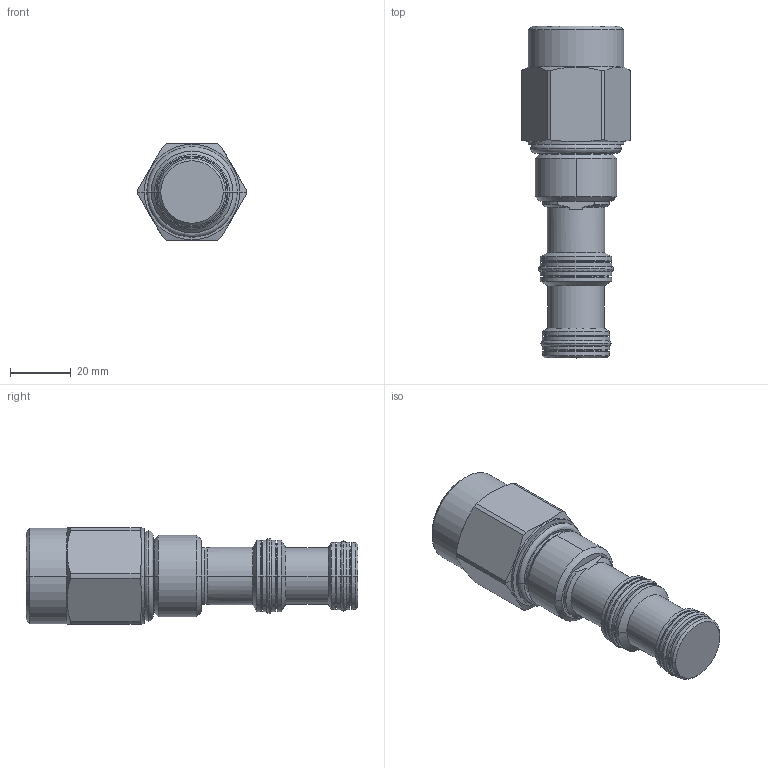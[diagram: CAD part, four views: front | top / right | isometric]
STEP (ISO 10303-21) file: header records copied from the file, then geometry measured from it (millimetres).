
FILE_DESCRIPTION((''),'2;1');
FILE_NAME('5265200_SW0001','2009-02-09T',('jcs'),(''),'PRO/ENGINEER BY PARAMETRIC TECHNOLOGY CORPORATION, 2008010','PRO/ENGINEER BY PARAMETRIC TECHNOLOGY CORPORATION, 2008010','');
FILE_SCHEMA(('CONFIG_CONTROL_DESIGN'));
Length unit declared in the file: inch
Products named in the file (1): 5265200_SW0001
Bounding box: 35.81 x 109.6 x 31.71 mm (x, y, z)
Volume: 60095.9 mm3; surface area: 13475 mm2
Topology: 4 solids, 4 shells, 138 faces, 300 edges, 178 vertices
Faces by surface type: cylinder 48, plane 26, revolution 24, cone 20, torus 20
Entity records: 4271 total; most frequent: CARTESIAN_POINT 1147, DIRECTION 690, ORIENTED_EDGE 600, EDGE_CURVE 300, AXIS2_PLACEMENT_3D 292, VERTEX_POINT 178, CIRCLE 178, EDGE_LOOP 152
